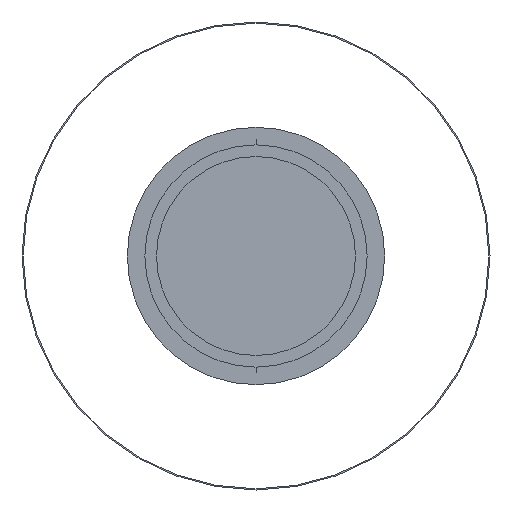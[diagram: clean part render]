
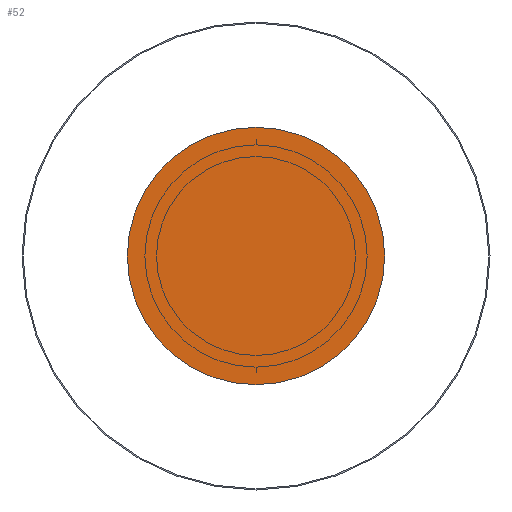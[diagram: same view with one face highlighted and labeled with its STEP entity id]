
A CAD part, front view. The second image highlights one B-rep face of the part: STEP entity #52.
In plain terms, the highlighted planar face has unit normal (0, -1, 0).
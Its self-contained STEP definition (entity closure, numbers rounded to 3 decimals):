
#31 = CIRCLE ( 'NONE', #540, 110. ) ;
#50 = CARTESIAN_POINT ( 'NONE',  ( 0., -2., 0. ) ) ;
#52 = ADVANCED_FACE ( 'NONE', ( #114 ), #514, .T. ) ;
#58 = AXIS2_PLACEMENT_3D ( 'NONE', #50, #710, #608 ) ;
#72 = DIRECTION ( 'NONE',  ( 0., 0., -1. ) ) ;
#114 = FACE_OUTER_BOUND ( 'NONE', #426, .T. ) ;
#121 = DIRECTION ( 'NONE',  ( 0., -1., 0. ) ) ;
#168 = VERTEX_POINT ( 'NONE', #200 ) ;
#200 = CARTESIAN_POINT ( 'NONE',  ( 0., -2., 110. ) ) ;
#243 = CIRCLE ( 'NONE', #58, 110. ) ;
#246 = ORIENTED_EDGE ( 'NONE', *, *, #478, .T. ) ;
#304 = ORIENTED_EDGE ( 'NONE', *, *, #555, .T. ) ;
#315 = DIRECTION ( 'NONE',  ( 0., -1., 0. ) ) ;
#316 = AXIS2_PLACEMENT_3D ( 'NONE', #673, #315, #72 ) ;
#426 = EDGE_LOOP ( 'NONE', ( #246, #304 ) ) ;
#478 = EDGE_CURVE ( 'NONE', #168, #670, #31, .T. ) ;
#503 = CARTESIAN_POINT ( 'NONE',  ( 0., -2., -110. ) ) ;
#514 = PLANE ( 'NONE',  #316 ) ;
#540 = AXIS2_PLACEMENT_3D ( 'NONE', #776, #121, #717 ) ;
#555 = EDGE_CURVE ( 'NONE', #670, #168, #243, .T. ) ;
#608 = DIRECTION ( 'NONE',  ( 0., 0., -1. ) ) ;
#670 = VERTEX_POINT ( 'NONE', #503 ) ;
#673 = CARTESIAN_POINT ( 'NONE',  ( 0., -2., 0. ) ) ;
#710 = DIRECTION ( 'NONE',  ( 0., -1., 0. ) ) ;
#717 = DIRECTION ( 'NONE',  ( 0., 0., -1. ) ) ;
#776 = CARTESIAN_POINT ( 'NONE',  ( 0., -2., 0. ) ) ;
